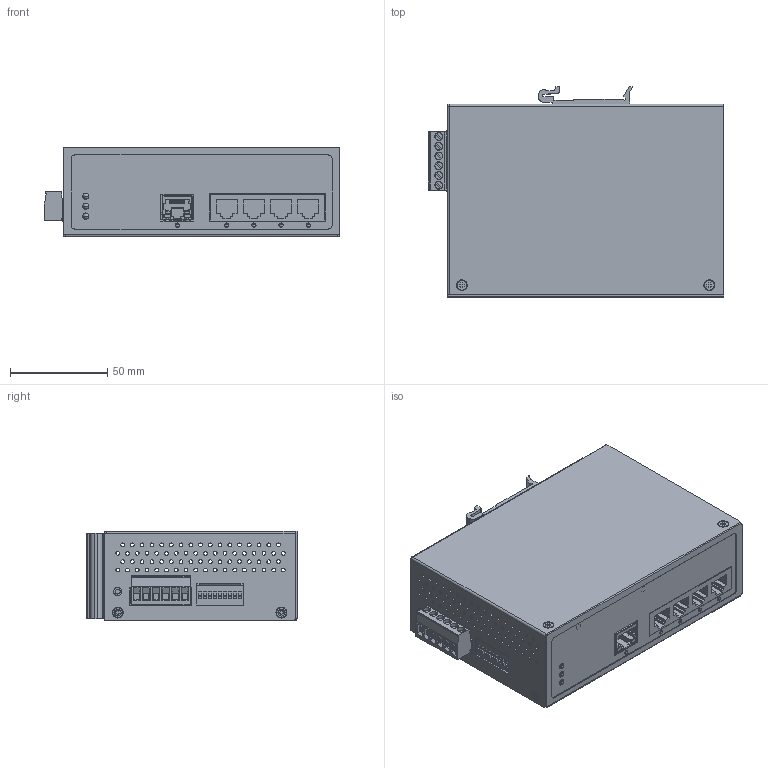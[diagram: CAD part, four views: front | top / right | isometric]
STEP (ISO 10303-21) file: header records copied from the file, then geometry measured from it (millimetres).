
FILE_DESCRIPTION((''),'2;1');
FILE_NAME('PT2-0500-24_ASM','2020-02-17T',('ASUS'),(''),'PRO/ENGINEER BY PARAMETRIC TECHNOLOGY CORPORATION, 2009440','PRO/ENGINEER BY PARAMETRIC TECHNOLOGY CORPORATION, 2009440','');
FILE_SCHEMA(('CONFIG_CONTROL_DESIGN'));
Products named in the file (48): PRT0001; PRT0002; PRT0003; ASM0007_ASM; PRT0004; PRT0005; PRT0006; PRT0007; PRT0008; PRT0009; PRT0010; PRT0011; PRT0012; PRT0013; PRT0014; PRT0015; PRT0016; PRT0017; PRT0018; PRT0019; PRT0020; PRT0021; ASM0006_ASM; ASM0005_ASM; PRT0022; PRT0023; PRT0024; PRT0025; PRT0026; ASM0004_ASM; PRT0027; PRT0028; ASM0009_ASM; PRT0029; PRT0030; PRT0031; ASM0010_ASM; PRT0032; PRT0033; PRT0034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
Assembly tree (73 placements, depth 8):
  PT2-0500-24_ASM
    ASM0002_ASM
      ASM0003_ASM
        ASM0004_ASM
          ASM0005_ASM
            ASM0006_ASM
              ASM0007_ASM
                PRT0001
                PRT0002
                PRT0003
              PRT0004
              PRT0005
              PRT0006
              PRT0007
              PRT0008
              PRT0009
              PRT0010
              PRT0011
              PRT0012
              PRT0013
              PRT0014
              PRT0015
              PRT0016
              PRT0017
              PRT0018
              PRT0019
              PRT0020
              PRT0021  x2
          PRT0022
          PRT0023
          PRT0024  x6
          PRT0025
          PRT0026
        ASM0008_ASM
          ASM0009_ASM
            PRT0027
            PRT0028
          ASM0010_ASM
            PRT0029
            PRT0030
            PRT0031
          PRT0032  x4
          PRT0033
          PRT0034  x10
        PRT0035  x7
        PRT0036
      SCREW-M3-L4_3_1  x3
      PRT0037
Bounding box: 151.84 x 107.8 x 46 mm (x, y, z)
Volume: 79074.2 mm3; surface area: 133235.5 mm2
Topology: 64 solids, 64 shells, 3609 faces, 9660 edges, 6254 vertices
Faces by surface type: plane 2276, cylinder 1069, cone 204, bspline 32, torus 22, sphere 6
Entity records: 102044 total; most frequent: CARTESIAN_POINT 18692, DIRECTION 17174, ORIENTED_EDGE 17060, EDGE_CURVE 8530, VECTOR 6276, LINE 6276, VERTEX_POINT 5525, AXIS2_PLACEMENT_3D 5449
